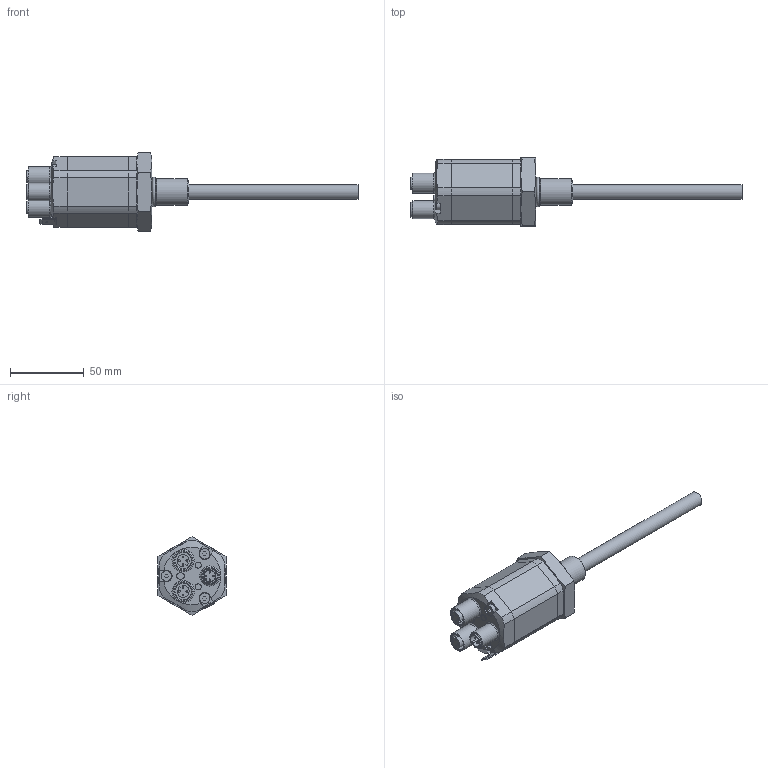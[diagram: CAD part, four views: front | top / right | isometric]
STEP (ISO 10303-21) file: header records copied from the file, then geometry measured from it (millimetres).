
FILE_DESCRIPTION( ( 'STEP AP203' ), '1' );
FILE_NAME( 'p:/temp/worker_26/temp/exporttempdir_2888_551_4kVo0/format_0/RH5 M A 0025M 01 D58 1 U402_(M_A_M_S_25_1_D58_U402__-_____-).stp', '2021-08-26T12:01:26', ( 'License CC BY-ND 4.0' ), ( 'CADENAS' ), ' ', 'PARTsolutions', ' ' );
FILE_SCHEMA( ( 'CONFIG_CONTROL_DESIGN' ) );
Length unit declared in the file: millimetre
Products named in the file (3): RH5 M A 0025M  01 D58 1 U402_(M_A_M_S_25_1_D58_U402__-_____-); _RH5 Pro_(M_D58)_EIP; _RHV STAB2_(A_25_M)_STAB
Assembly tree (2 placements, depth 2):
  RH5 M A 0025M  01 D58 1 U402_(M_A_M_S_25_1_D58_U402__-_____-)
    _RH5 Pro_(M_D58)_EIP
    _RHV STAB2_(A_25_M)_STAB
Bounding box: 224.5 x 46 x 53.12 mm (x, y, z)
Volume: 133983.2 mm3; surface area: 25030.6 mm2
Topology: 2 solids, 2 shells, 227 faces, 527 edges, 336 vertices
Faces by surface type: plane 131, cylinder 64, cone 26, torus 6
Full cylindrical faces by diameter (mm): 1 x4, 1.15 x8, 1.7 x1, 4.1 x2, 7 x3, 8.375 x1, 10 x1, 10.2 x1, 11.1 x2, 12 x1, 13.5 x2, 16.16 x2, 18 x1
Entity records: 6395 total; most frequent: CARTESIAN_POINT 1232, DIRECTION 1075, ORIENTED_EDGE 956, EDGE_CURVE 478, AXIS2_PLACEMENT_3D 408, VERTEX_POINT 333, EDGE_LOOP 306, FACE_OUTER_BOUND 261
